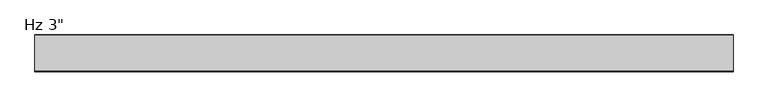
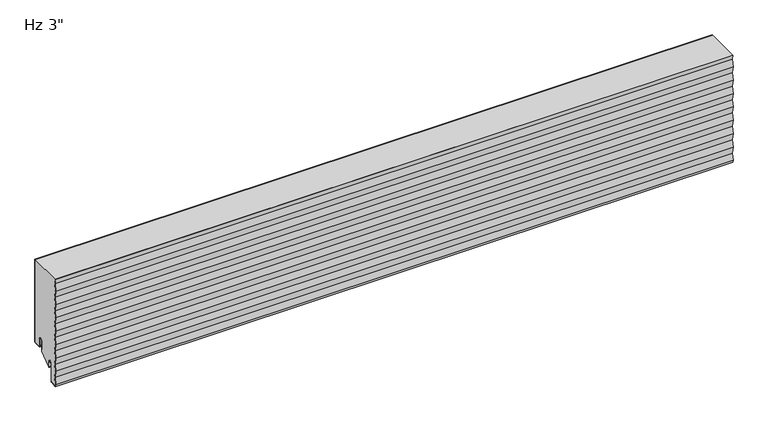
"""IFC4 building model written with IfcOpenShell, lengths in millimetres: plate geometry."""

from ifc_helpers import new_model, si_unit, point, frame, frame_2d, origin, place, context, project, spatial, polyline, circle_curve, trimmed, segment, composite_curve, outline, extrude, source, transform, mapped, element, save


def plate_b5e3bbd7(model_context):
    return source(origin(), model_context, "Body", "SweptSolid", [
        extrude(outline(composite_curve([segment(trimmed(circle_curve(frame_2d((-21.43125, 19.05)), 4.96875), [point((-16.4625, 19.05))], [point((-26.4, 19.05))], True, "CARTESIAN"), True, "CONTINUOUS"), segment(polyline([(-26.4, 19.05), (-26.4, -3.1323422), (-49.2157227, -23.01875), (-50.8, -23.01875), (-50.8, -13.5080174), (-51.59375, -13.5080174), (-51.3875, -11.9205174)]), True, "CONTINUOUS"), segment(trimmed(circle_curve(frame_2d((-56.35625, -11.9205174)), 4.96875), [point((-51.3875, -11.9205174))], [point((-61.325, -11.9205174))], True, "CARTESIAN"), True, "CONTINUOUS"), segment(polyline([(-61.325, -11.9205174), (-61.325, -50.1038221)]), True, "CONTINUOUS"), segment(trimmed(circle_curve(frame_2d((-62.70625, -50.1038221)), 1.38125), [point((-61.325, -50.1038221))], [point((-62.633961, -51.4831791))], False, "CARTESIAN"), True, "CONTINUOUS"), segment(polyline([(-62.633961, -51.4831791), (-75.8062471, -52.1735094), (-76.3378194, -48.8511825), (-73.8994194, -33.6111825), (-76.3378194, -18.3711825), (-73.8994194, -3.1311825), (-76.3378194, 12.1088175), (-73.8994194, 27.3488175), (-76.3378194, 42.5888175), (-73.8994194, 57.8288175), (-76.3378194, 73.0688175), (-73.8994194, 88.3088175), (-76.3378194, 103.5488175), (-73.8994194, 118.7888175), (-76.3378194, 134.0288175), (-73.8994194, 149.2688175), (-76.3378194, 164.5088175), (-73.8994194, 179.7488175), (-75.5716086, 190.2), (-1.0, 190.2), (-1.0, 3.175)]), True, "CONTINUOUS"), segment(trimmed(circle_curve(frame_2d((-2.38125, 3.175)), 1.38125), [point((-1.0, 3.175))], [point((-2.38125, 1.79375))], False, "CARTESIAN"), True, "CONTINUOUS"), segment(polyline([(-2.38125, 1.79375), (-15.08125, 1.79375)]), True, "CONTINUOUS"), segment(trimmed(circle_curve(frame_2d((-15.08125, 3.175)), 1.38125), [point((-15.08125, 1.79375))], [point((-16.4625, 3.175))], False, "CARTESIAN"), True, "CONTINUOUS"), segment(polyline([(-16.4625, 3.175), (-16.4625, 19.05)]), True, "CONTINUOUS")], self_intersect=False)), frame((-730.0, 0.0, 0.0), z_axis=(1.0, 0.0, 0.0), x_axis=(0.0, 1.0, 0.0)), (0.0, 0.0, 1.0), 1460.0),
        extrude(outline(composite_curve([segment(polyline([(-25.4, 0.79375), (-26.4, 0.79375), (-26.4, 19.05)]), True, "CONTINUOUS"), segment(trimmed(circle_curve(frame_2d((-21.43125, 19.05)), 4.96875), [point((-26.4, 19.05))], [point((-16.4625, 19.05))], False, "CARTESIAN"), True, "CONTINUOUS"), segment(polyline([(-16.4625, 19.05), (-16.4625, 3.175)]), True, "CONTINUOUS"), segment(trimmed(circle_curve(frame_2d((-15.08125, 3.175)), 1.38125), [point((-16.4625, 3.175))], [point((-15.08125, 1.79375))], True, "CARTESIAN"), True, "CONTINUOUS"), segment(polyline([(-15.08125, 1.79375), (-2.38125, 1.79375)]), True, "CONTINUOUS"), segment(trimmed(circle_curve(frame_2d((-2.38125, 3.175)), 1.38125), [point((-2.38125, 1.79375))], [point((-1.0, 3.175))], True, "CARTESIAN"), True, "CONTINUOUS"), segment(polyline([(-1.0, 3.175), (-1.0, 190.2), (0.0, 190.2), (0.0, 3.175)]), True, "CONTINUOUS"), segment(trimmed(circle_curve(frame_2d((-2.38125, 3.175)), 2.38125), [point((0.0, 3.175))], [point((-2.38125, 0.79375))], False, "CARTESIAN"), True, "CONTINUOUS"), segment(polyline([(-2.38125, 0.79375), (-15.08125, 0.79375)]), True, "CONTINUOUS"), segment(trimmed(circle_curve(frame_2d((-15.08125, 3.175)), 2.38125), [point((-15.08125, 0.79375))], [point((-17.4625, 3.175))], False, "CARTESIAN"), True, "CONTINUOUS"), segment(polyline([(-17.4625, 3.175), (-17.4625, 19.05)]), True, "CONTINUOUS"), segment(trimmed(circle_curve(frame_2d((-21.43125, 19.05)), 3.96875), [point((-17.4625, 19.05))], [point((-25.4, 19.05))], True, "CARTESIAN"), True, "CONTINUOUS"), segment(polyline([(-25.4, 19.05), (-25.4, 0.79375)]), True, "CONTINUOUS")], self_intersect=False)), frame((-730.0, 0.0, 0.0), z_axis=(1.0, 0.0, 0.0), x_axis=(0.0, 1.0, 0.0)), (0.0, 0.0, 1.0), 1460.0),
        extrude(outline(composite_curve([segment(trimmed(circle_curve(frame_2d((-51.59375, -23.2314549)), 0.79375), [point((-50.8, -23.2314549))], [point((-52.3875, -23.2314549))], False, "CARTESIAN"), True, "CONTINUOUS"), segment(polyline([(-52.3875, -23.2314549), (-52.3875, -11.9205174)]), True, "CONTINUOUS"), segment(trimmed(circle_curve(frame_2d((-56.35625, -11.9205174)), 3.96875), [point((-52.3875, -11.9205174))], [point((-60.325, -11.9205174))], True, "CARTESIAN"), True, "CONTINUOUS"), segment(polyline([(-60.325, -11.9205174), (-60.325, -50.1038221)]), True, "CONTINUOUS"), segment(trimmed(circle_curve(frame_2d((-62.70625, -50.1038221)), 2.38125), [point((-60.325, -50.1038221))], [point((-62.581625, -52.4818086))], False, "CARTESIAN"), True, "CONTINUOUS"), segment(polyline([(-62.581625, -52.4818086), (-76.7543553, -53.22457), (-77.4509395, -48.8709186), (-75.0125395, -33.6309186), (-77.4509395, -18.3909186), (-75.0125395, -3.1509186), (-77.4509395, 12.0890814), (-75.0125395, 27.3290814), (-77.4509395, 42.5690814), (-75.0125395, 57.8090814), (-77.4509395, 73.0490814), (-75.0125395, 88.2890814), (-77.4509395, 103.5290814), (-75.0125395, 118.7690814), (-77.4509395, 134.0090814), (-75.0125395, 149.2490814), (-77.4509395, 164.4890814), (-75.0125395, 179.7290814), (-76.6878865, 190.2), (-75.6751674, 190.2), (-73.9998204, 179.7290814), (-76.4382204, 164.4890814), (-73.9998204, 149.2490814), (-76.4382204, 134.0090814), (-73.9998204, 118.7690814), (-76.4382204, 103.5290814), (-73.9998204, 88.2890814), (-76.4382204, 73.0490814), (-73.9998204, 57.8090814), (-76.4382204, 42.5690814), (-73.9998204, 27.3290814), (-76.4382204, 12.0890814), (-73.9998204, -3.1509186), (-76.4382204, -18.3909186), (-73.9998204, -33.6309186), (-76.4382204, -48.8709186), (-75.9089447, -52.1788915), (-62.633961, -51.4831791)]), True, "CONTINUOUS"), segment(trimmed(circle_curve(frame_2d((-62.70625, -50.1038221)), 1.38125), [point((-62.633961, -51.4831791))], [point((-61.325, -50.1038221))], True, "CARTESIAN"), True, "CONTINUOUS"), segment(polyline([(-61.325, -50.1038221), (-61.325, -11.9205174)]), True, "CONTINUOUS"), segment(trimmed(circle_curve(frame_2d((-56.35625, -11.9205174)), 4.96875), [point((-61.325, -11.9205174))], [point((-51.3875, -11.9205174))], False, "CARTESIAN"), True, "CONTINUOUS"), segment(polyline([(-51.3875, -11.9205174), (-51.59375, -13.5080174), (-50.8, -13.5080174), (-50.8, -23.2314549)]), True, "CONTINUOUS")], self_intersect=False)), frame((-730.0, 0.0, 0.0), z_axis=(1.0, 0.0, 0.0), x_axis=(0.0, 1.0, 0.0)), (0.0, 0.0, 1.0), 1460.0),
    ])


if __name__ == "__main__":
    model = new_model("IFC4")
    model_context = context("Model", 3, world=origin())
    ifc_project = project(units=[si_unit("LENGTHUNIT", "METRE", prefix="MILLI")], contexts=[model_context])
    site = spatial("IfcSite", under=ifc_project)
    building = spatial("IfcBuilding", under=site)
    placement = place(None, origin())
    plate_shape = plate_b5e3bbd7(model_context)
    element("IfcPlate", 1, ObjectType="KIP-30-DWHR-R19-CP-Hz-S : Hz 3\"", at=placement, inside=building, context=model_context, shape_type="MappedRepresentation", body=[
        mapped(plate_shape, transform((0.0, 0.0, 0.0), x_axis=(1.0, 0.0, 0.0), y_axis=(0.0, 1.0, 0.0), z_axis=(0.0, 0.0, 1.0))),
    ])
    save(model, "model.ifc")
